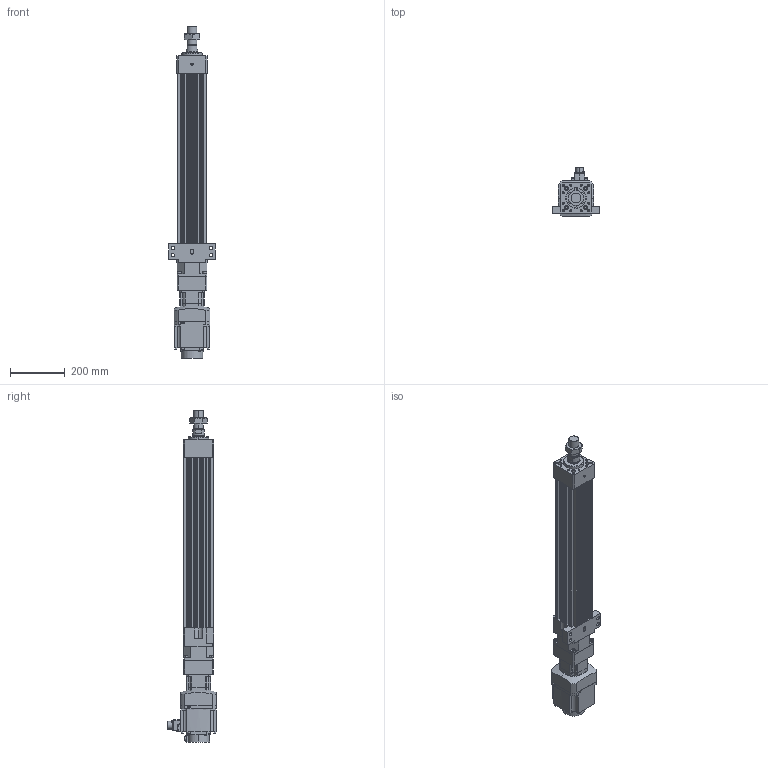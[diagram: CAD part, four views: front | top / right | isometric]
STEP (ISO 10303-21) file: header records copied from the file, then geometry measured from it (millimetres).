
FILE_DESCRIPTION (( 'STEP AP203' ), '1' );
FILE_NAME ('HES110NS(HS)-S450-W010G00-M-FFC.STEP', '2023-01-27T06:36:42', ( 'tms' ), ( '' ), 'SwSTEP 2.0', 'SolidWorks 2013', '' );
FILE_SCHEMA (( 'CONFIG_CONTROL_DESIGN' ));
Length unit declared in the file: millimetre
Products named in the file (8): P0401301004; HES110 ROD M ST450; HES110-S450-G090-FFC; AB090-003[HG-SR102B]; HG-SR102; M36X1.5P; HES110NS(HS)-S450-W010G00-M-FFC; AB0901
Assembly tree (7 placements, depth 3):
  HES110NS(HS)-S450-W010G00-M-FFC
    HES110-S450-G090-FFC
    HES110 ROD M ST450
    M36X1.5P
    AB090-003[HG-SR102B]
      AB0901
      P0401301004
    HG-SR102
Bounding box: 170 x 177.49 x 1208.5 mm (x, y, z)
Volume: 7807722.9 mm3; surface area: 1069578.5 mm2
Topology: 4 solids, 15 shells, 1217 faces, 3075 edges, 1984 vertices
Faces by surface type: plane 556, cylinder 547, cone 102, bspline 8, torus 4
Entity records: 38420 total; most frequent: CARTESIAN_POINT 7442, DIRECTION 6626, ORIENTED_EDGE 6054, EDGE_CURVE 3037, AXIS2_PLACEMENT_3D 2439, VERTEX_POINT 1984, LINE 1748, VECTOR 1748
